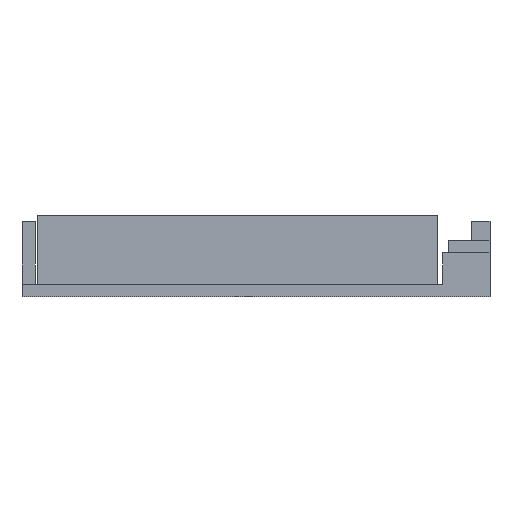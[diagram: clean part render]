
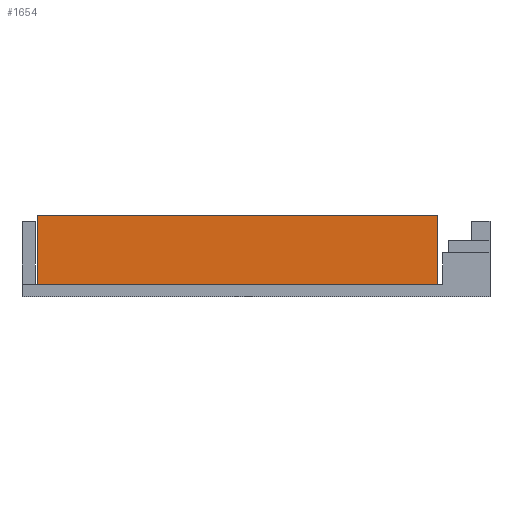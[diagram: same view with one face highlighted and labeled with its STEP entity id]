
A CAD part, left-side view. The second image highlights one B-rep face of the part: STEP entity #1654.
In plain terms, the highlighted planar face has unit normal (-1, 0, 0).
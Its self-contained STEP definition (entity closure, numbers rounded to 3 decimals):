
#154 = PLANE('',#155);
#155 = AXIS2_PLACEMENT_3D('',#156,#157,#158);
#156 = CARTESIAN_POINT('',(0.,0.,2.4));
#157 = DIRECTION('',(0.,0.,1.));
#158 = DIRECTION('',(1.,0.,-0.));
#794 = VERTEX_POINT('',#795);
#795 = CARTESIAN_POINT('',(5.5,10.,2.4));
#808 = PLANE('',#809);
#809 = AXIS2_PLACEMENT_3D('',#810,#811,#812);
#810 = CARTESIAN_POINT('',(5.5,10.,2.3));
#811 = DIRECTION('',(-0.,1.,0.));
#812 = DIRECTION('',(0.,0.,1.));
#820 = EDGE_CURVE('',#794,#821,#823,.T.);
#821 = VERTEX_POINT('',#822);
#822 = CARTESIAN_POINT('',(5.5,86.5,2.4));
#823 = SURFACE_CURVE('',#824,(#828,#834),.PCURVE_S1.);
#824 = LINE('',#825,#826);
#825 = CARTESIAN_POINT('',(5.5,5.,2.4));
#826 = VECTOR('',#827,1.);
#827 = DIRECTION('',(-0.,1.,0.));
#828 = PCURVE('',#154,#829);
#829 = DEFINITIONAL_REPRESENTATION('',(#830),#833);
#830 = B_SPLINE_CURVE_WITH_KNOTS('',1,(#831,#832),.UNSPECIFIED.,.F.,.F.,
  (2,2),(5.,81.5),.PIECEWISE_BEZIER_KNOTS.);
#831 = CARTESIAN_POINT('',(5.5,10.));
#832 = CARTESIAN_POINT('',(5.5,86.5));
#833 = ( GEOMETRIC_REPRESENTATION_CONTEXT(2) 
PARAMETRIC_REPRESENTATION_CONTEXT() REPRESENTATION_CONTEXT('2D SPACE',''
  ) );
#834 = PCURVE('',#835,#840);
#835 = PLANE('',#836);
#836 = AXIS2_PLACEMENT_3D('',#837,#838,#839);
#837 = CARTESIAN_POINT('',(5.5,10.,2.3));
#838 = DIRECTION('',(1.,0.,-0.));
#839 = DIRECTION('',(0.,0.,1.));
#840 = DEFINITIONAL_REPRESENTATION('',(#841),#845);
#841 = LINE('',#842,#843);
#842 = CARTESIAN_POINT('',(0.1,5.));
#843 = VECTOR('',#844,1.);
#844 = DIRECTION('',(0.,-1.));
#845 = ( GEOMETRIC_REPRESENTATION_CONTEXT(2) 
PARAMETRIC_REPRESENTATION_CONTEXT() REPRESENTATION_CONTEXT('2D SPACE',''
  ) );
#862 = PLANE('',#863);
#863 = AXIS2_PLACEMENT_3D('',#864,#865,#866);
#864 = CARTESIAN_POINT('',(5.5,86.5,2.3));
#865 = DIRECTION('',(-0.,1.,0.));
#866 = DIRECTION('',(0.,0.,1.));
#1445 = EDGE_CURVE('',#1446,#794,#1448,.T.);
#1446 = VERTEX_POINT('',#1447);
#1447 = CARTESIAN_POINT('',(5.5,10.,15.6));
#1448 = SURFACE_CURVE('',#1449,(#1453,#1460),.PCURVE_S1.);
#1449 = LINE('',#1450,#1451);
#1450 = CARTESIAN_POINT('',(5.5,10.,15.6));
#1451 = VECTOR('',#1452,1.);
#1452 = DIRECTION('',(0.,0.,-1.));
#1453 = PCURVE('',#808,#1454);
#1454 = DEFINITIONAL_REPRESENTATION('',(#1455),#1459);
#1455 = LINE('',#1456,#1457);
#1456 = CARTESIAN_POINT('',(13.3,0.));
#1457 = VECTOR('',#1458,1.);
#1458 = DIRECTION('',(-1.,0.));
#1459 = ( GEOMETRIC_REPRESENTATION_CONTEXT(2) 
PARAMETRIC_REPRESENTATION_CONTEXT() REPRESENTATION_CONTEXT('2D SPACE',''
  ) );
#1460 = PCURVE('',#835,#1461);
#1461 = DEFINITIONAL_REPRESENTATION('',(#1462),#1466);
#1462 = LINE('',#1463,#1464);
#1463 = CARTESIAN_POINT('',(13.3,0.));
#1464 = VECTOR('',#1465,1.);
#1465 = DIRECTION('',(-1.,0.));
#1466 = ( GEOMETRIC_REPRESENTATION_CONTEXT(2) 
PARAMETRIC_REPRESENTATION_CONTEXT() REPRESENTATION_CONTEXT('2D SPACE',''
  ) );
#1484 = PLANE('',#1485);
#1485 = AXIS2_PLACEMENT_3D('',#1486,#1487,#1488);
#1486 = CARTESIAN_POINT('',(5.5,10.,15.6));
#1487 = DIRECTION('',(0.,0.,1.));
#1488 = DIRECTION('',(1.,0.,-0.));
#1654 = ADVANCED_FACE('',(#1655),#835,.F.);
#1655 = FACE_BOUND('',#1656,.F.);
#1656 = EDGE_LOOP('',(#1657,#1658,#1681,#1702));
#1657 = ORIENTED_EDGE('',*,*,#820,.T.);
#1658 = ORIENTED_EDGE('',*,*,#1659,.T.);
#1659 = EDGE_CURVE('',#821,#1660,#1662,.T.);
#1660 = VERTEX_POINT('',#1661);
#1661 = CARTESIAN_POINT('',(5.5,86.5,15.6));
#1662 = SURFACE_CURVE('',#1663,(#1667,#1674),.PCURVE_S1.);
#1663 = LINE('',#1664,#1665);
#1664 = CARTESIAN_POINT('',(5.5,86.5,2.4));
#1665 = VECTOR('',#1666,1.);
#1666 = DIRECTION('',(0.,0.,1.));
#1667 = PCURVE('',#835,#1668);
#1668 = DEFINITIONAL_REPRESENTATION('',(#1669),#1673);
#1669 = LINE('',#1670,#1671);
#1670 = CARTESIAN_POINT('',(0.1,-76.5));
#1671 = VECTOR('',#1672,1.);
#1672 = DIRECTION('',(1.,0.));
#1673 = ( GEOMETRIC_REPRESENTATION_CONTEXT(2) 
PARAMETRIC_REPRESENTATION_CONTEXT() REPRESENTATION_CONTEXT('2D SPACE',''
  ) );
#1674 = PCURVE('',#862,#1675);
#1675 = DEFINITIONAL_REPRESENTATION('',(#1676),#1680);
#1676 = LINE('',#1677,#1678);
#1677 = CARTESIAN_POINT('',(0.1,0.));
#1678 = VECTOR('',#1679,1.);
#1679 = DIRECTION('',(1.,0.));
#1680 = ( GEOMETRIC_REPRESENTATION_CONTEXT(2) 
PARAMETRIC_REPRESENTATION_CONTEXT() REPRESENTATION_CONTEXT('2D SPACE',''
  ) );
#1681 = ORIENTED_EDGE('',*,*,#1682,.F.);
#1682 = EDGE_CURVE('',#1446,#1660,#1683,.T.);
#1683 = SURFACE_CURVE('',#1684,(#1688,#1695),.PCURVE_S1.);
#1684 = LINE('',#1685,#1686);
#1685 = CARTESIAN_POINT('',(5.5,10.,15.6));
#1686 = VECTOR('',#1687,1.);
#1687 = DIRECTION('',(-0.,1.,0.));
#1688 = PCURVE('',#835,#1689);
#1689 = DEFINITIONAL_REPRESENTATION('',(#1690),#1694);
#1690 = LINE('',#1691,#1692);
#1691 = CARTESIAN_POINT('',(13.3,0.));
#1692 = VECTOR('',#1693,1.);
#1693 = DIRECTION('',(0.,-1.));
#1694 = ( GEOMETRIC_REPRESENTATION_CONTEXT(2) 
PARAMETRIC_REPRESENTATION_CONTEXT() REPRESENTATION_CONTEXT('2D SPACE',''
  ) );
#1695 = PCURVE('',#1484,#1696);
#1696 = DEFINITIONAL_REPRESENTATION('',(#1697),#1701);
#1697 = LINE('',#1698,#1699);
#1698 = CARTESIAN_POINT('',(0.,0.));
#1699 = VECTOR('',#1700,1.);
#1700 = DIRECTION('',(0.,1.));
#1701 = ( GEOMETRIC_REPRESENTATION_CONTEXT(2) 
PARAMETRIC_REPRESENTATION_CONTEXT() REPRESENTATION_CONTEXT('2D SPACE',''
  ) );
#1702 = ORIENTED_EDGE('',*,*,#1445,.T.);
